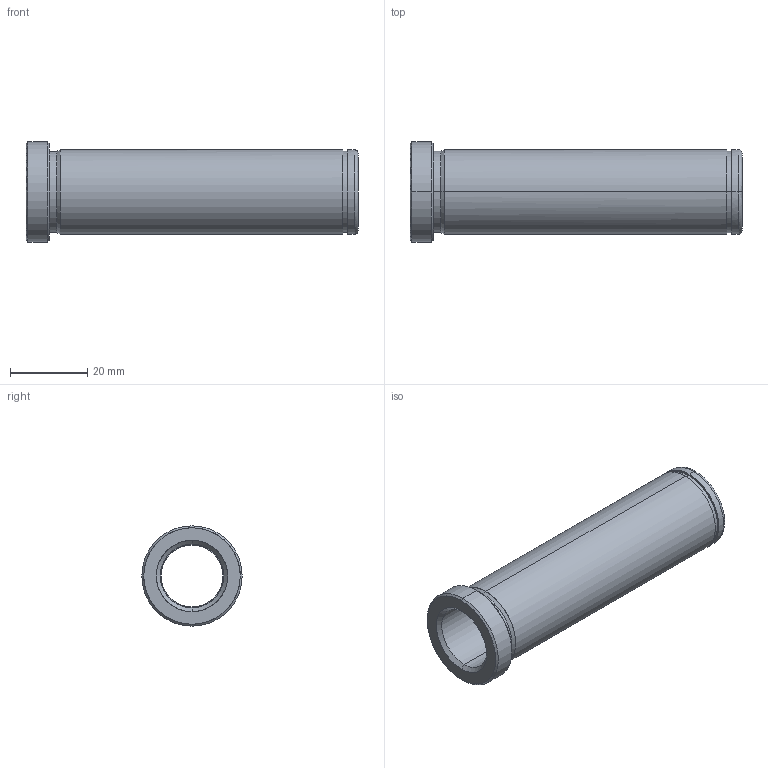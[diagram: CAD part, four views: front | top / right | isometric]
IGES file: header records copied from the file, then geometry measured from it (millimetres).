
Start section: START RECORD GO HERE.
Global section: file name: 553-16X86.igs; native system: DASSAULT SYSTEMES CATIA V5 R20 - www.3ds.com; preprocessor: CATIA Version 5 Release 20 ; author: Utente; organization: NB04-ASUS; date: 20210521.204321; units: millimetre
Bounding box: 86 x 26 x 26 mm (x, y, z)
Surface area: 11024.3 mm2 (no closed solid volume)
Topology: 0 solids, 0 shells, 32 faces, 204 edges, 204 vertices
Faces by surface type: revolution 26, plane 6
